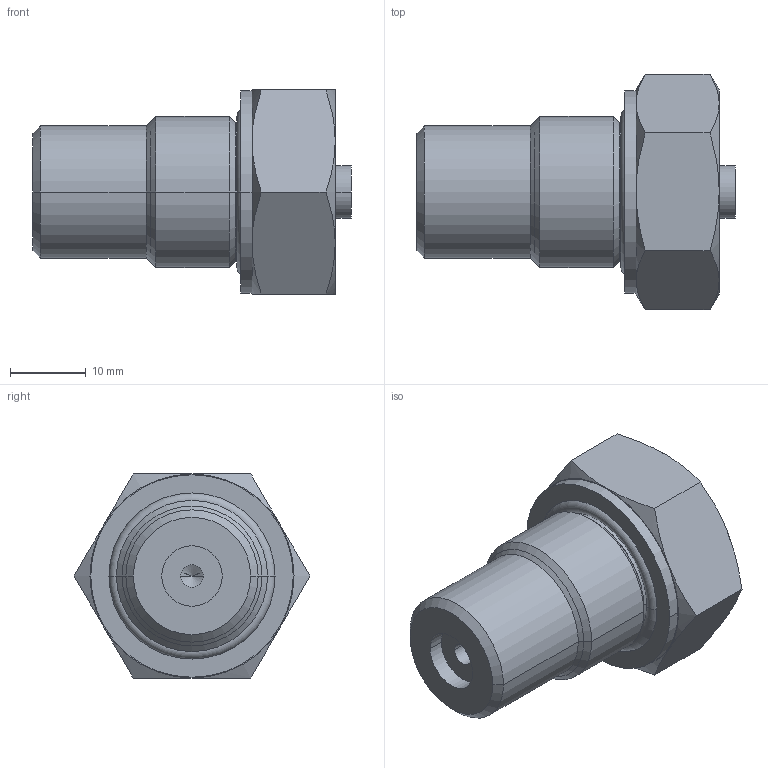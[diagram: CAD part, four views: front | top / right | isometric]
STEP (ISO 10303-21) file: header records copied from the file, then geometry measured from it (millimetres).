
FILE_DESCRIPTION((''),'2;1');
FILE_NAME('CSM-572_ASM','2011-06-24T',('chad.steele'),(''),'PRO/ENGINEER BY PARAMETRIC TECHNOLOGY CORPORATION, 2010040','PRO/ENGINEER BY PARAMETRIC TECHNOLOGY CORPORATION, 2010040','');
FILE_SCHEMA(('CONFIG_CONTROL_DESIGN'));
Length unit declared in the file: millimetre
Products named in the file (6): DC6090030; PA1820108; PA2120040; DC6036044; PA1827503; CSM-572_ASM
Assembly tree (5 placements, depth 2):
  CSM-572_ASM
    DC6090030
    PA1820108
    PA2120040
    DC6036044
    PA1827503
Bounding box: 42.1 x 31.18 x 27 mm (x, y, z)
Volume: 12418.6 mm3; surface area: 10457.5 mm2
Topology: 5 solids, 9 shells, 140 faces, 308 edges, 184 vertices
Faces by surface type: cylinder 48, cone 36, plane 32, torus 24
Entity records: 4212 total; most frequent: CARTESIAN_POINT 895, DIRECTION 762, ORIENTED_EDGE 592, AXIS2_PLACEMENT_3D 335, EDGE_CURVE 304, VERTEX_POINT 184, CIRCLE 178, EDGE_LOOP 158
